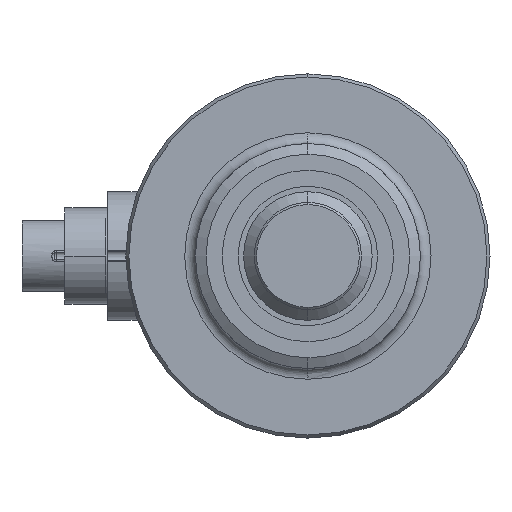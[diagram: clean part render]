
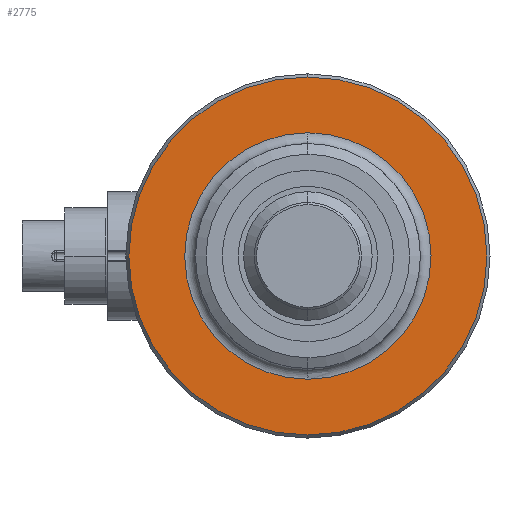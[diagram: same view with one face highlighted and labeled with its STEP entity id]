
A CAD part, left-side view. The second image highlights one B-rep face of the part: STEP entity #2775.
In plain terms, the highlighted planar face has unit normal (-1, 0, 0).
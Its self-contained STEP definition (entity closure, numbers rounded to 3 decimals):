
#671=CARTESIAN_POINT('',(-4.,0.,
0.));
#672=DIRECTION('',(1.,0.,0.));
#673=DIRECTION('',(0.,0.,-1.));
#674=AXIS2_PLACEMENT_3D('',#671,#672,#673);
#676=CARTESIAN_POINT('',(-4.,0.,
0.));
#677=DIRECTION('',(1.,0.,0.));
#678=DIRECTION('',(0.,0.,1.));
#679=AXIS2_PLACEMENT_3D('',#676,#677,#678);
#681=CARTESIAN_POINT('',(-4.,0.,0.));
#682=DIRECTION('',(-1.,0.,0.));
#683=DIRECTION('',(0.,0.,1.));
#684=AXIS2_PLACEMENT_3D('',#681,#682,#683);
#686=CARTESIAN_POINT('',(-4.,0.,0.));
#687=DIRECTION('',(-1.,0.,0.));
#688=DIRECTION('',(0.,0.01,1.));
#689=AXIS2_PLACEMENT_3D('',#686,#687,#688);
#691=CARTESIAN_POINT('',(-4.,0.,0.));
#692=DIRECTION('',(-1.,0.,0.));
#693=DIRECTION('',(0.,0.,-1.));
#694=AXIS2_PLACEMENT_3D('',#691,#692,#693);
#696=CARTESIAN_POINT('',(-4.,0.,0.));
#697=DIRECTION('',(-1.,0.,0.));
#698=DIRECTION('',(0.,-0.01,-1.));
#699=AXIS2_PLACEMENT_3D('',#696,#697,#698);
#1706=CARTESIAN_POINT('',(-4.,0.,
16.711));
#1707=CARTESIAN_POINT('',(-4.,0.,
-16.711));
#1708=VERTEX_POINT('',#1706);
#1709=VERTEX_POINT('',#1707);
#1710=CARTESIAN_POINT('',(-4.,0.116,11.499));
#1711=CARTESIAN_POINT('',(-4.,0.,-11.5));
#1712=VERTEX_POINT('',#1710);
#1713=VERTEX_POINT('',#1711);
#1714=CARTESIAN_POINT('',(-4.,0.,11.5));
#1715=VERTEX_POINT('',#1714);
#1716=CARTESIAN_POINT('',(-4.,-0.116,-11.499));
#1717=VERTEX_POINT('',#1716);
#2755=CARTESIAN_POINT('',(-4.,0.,0.));
#2756=DIRECTION('',(1.,0.,0.));
#2757=DIRECTION('',(0.,0.,1.));
#2758=AXIS2_PLACEMENT_3D('',#2755,#2756,#2757);
#2759=PLANE('',#2758);
#2761=ORIENTED_EDGE('',*,*,#2760,.T.);
#2762=ORIENTED_EDGE('',*,*,#2745,.T.);
#2763=EDGE_LOOP('',(#2761,#2762));
#2764=FACE_OUTER_BOUND('',#2763,.F.);
#2766=ORIENTED_EDGE('',*,*,#2765,.T.);
#2768=ORIENTED_EDGE('',*,*,#2767,.T.);
#2770=ORIENTED_EDGE('',*,*,#2769,.T.);
#2772=ORIENTED_EDGE('',*,*,#2771,.T.);
#2773=EDGE_LOOP('',(#2766,#2768,#2770,#2772));
#2774=FACE_BOUND('',#2773,.F.);
#2775=ADVANCED_FACE('',(#2764,#2774),#2759,.F.);
#675=CIRCLE('',#674,16.711);
#680=CIRCLE('',#679,16.711);
#685=CIRCLE('',#684,11.5);
#690=CIRCLE('',#689,11.5);
#695=CIRCLE('',#694,11.5);
#700=CIRCLE('',#699,11.5);
#2745=EDGE_CURVE('',#1708,#1709,#680,.T.);
#2760=EDGE_CURVE('',#1709,#1708,#675,.T.);
#2765=EDGE_CURVE('',#1715,#1712,#685,.T.);
#2767=EDGE_CURVE('',#1712,#1713,#690,.T.);
#2769=EDGE_CURVE('',#1713,#1717,#695,.T.);
#2771=EDGE_CURVE('',#1717,#1715,#700,.T.);
